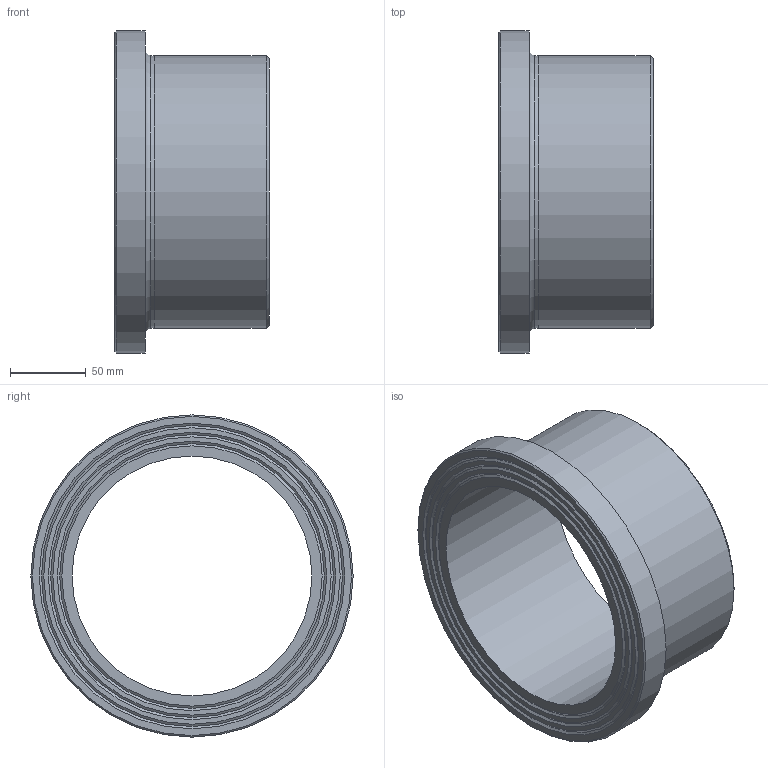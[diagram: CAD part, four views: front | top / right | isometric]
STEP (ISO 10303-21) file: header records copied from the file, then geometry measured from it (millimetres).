
FILE_DESCRIPTION(/* description */ ('Unknown'),/* implementation_level */ '2;1');
FILE_NAME(/* name */ 'CCP180B',/* time_stamp */ '2022-04-05T09:41:26+02:00',/* author */ ('Unknown'),/* organization */ ('Unknown'),/* preprocessor_version */ 'ST-DEVELOPER v18.1',/* originating_system */ 'Solid Edge',/* authorisation */ 'Unknown');
FILE_SCHEMA (('AUTOMOTIVE_DESIGN {1 0 10303 214 3 1 1}'));
Length unit declared in the file: millimetre
Products named in the file (1): CCP180B
Bounding box: 102 x 213 x 213 mm (x, y, z)
Volume: 782304.2 mm3; surface area: 141479.4 mm2
Topology: 1 solids, 1 shells, 19 faces, 33 edges, 20 vertices
Faces by surface type: cone 9, plane 6, cylinder 3, torus 1
Full cylindrical faces by diameter (mm): 158.6 x1, 180 x1, 213 x1
Entity records: 418 total; most frequent: DIRECTION 78, CARTESIAN_POINT 58, AXIS2_PLACEMENT_3D 39, ORIENTED_EDGE 38, EDGE_LOOP 38, FACE_BOUND 38, EDGE_CURVE 19, VERTEX_POINT 19
